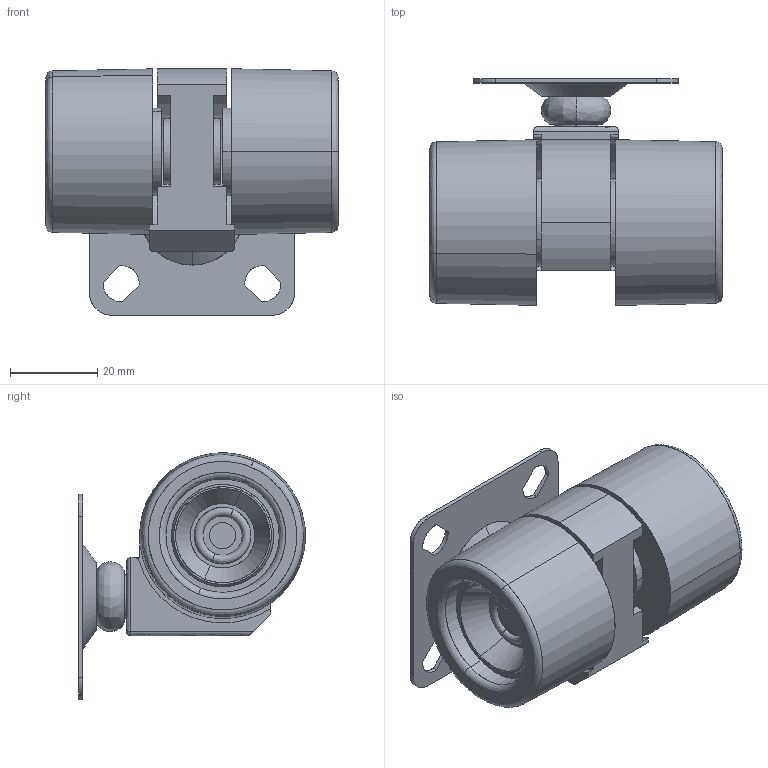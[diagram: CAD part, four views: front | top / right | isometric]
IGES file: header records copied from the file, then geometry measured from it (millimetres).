
Start section: SolidWorks IGES file using analytic representation for surfaces
Bounding box: 67 x 52 x 56.5 mm (x, y, z)
Surface area: 21788.3 mm2 (no closed solid volume)
Topology: 0 solids, 0 shells, 139 faces, 2368 edges, 2366 vertices
Faces by surface type: revolution 71, bspline 68
